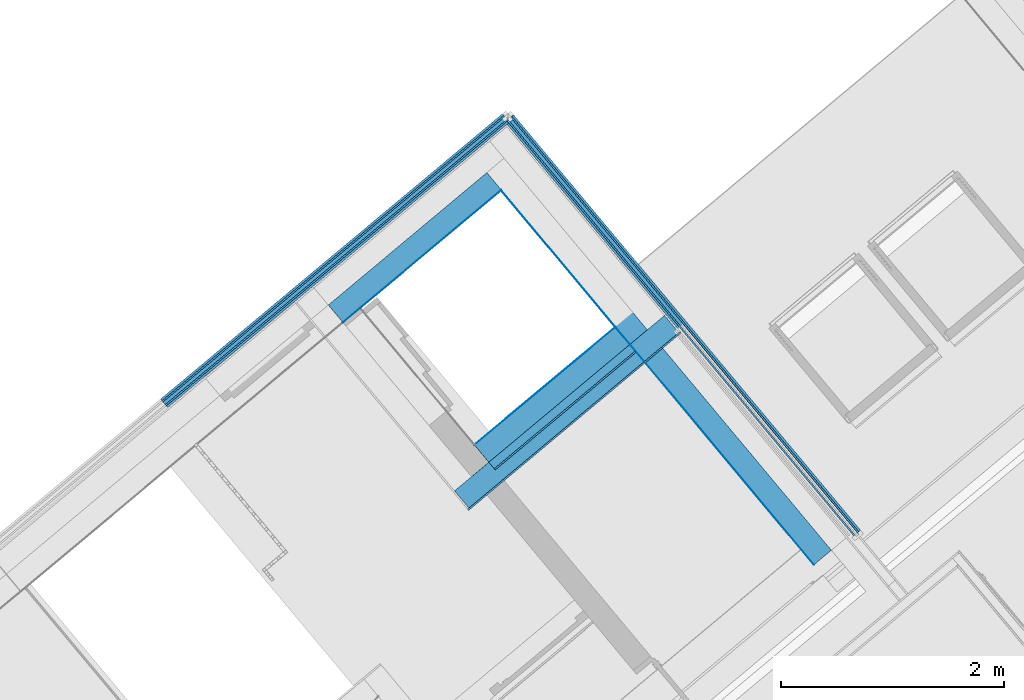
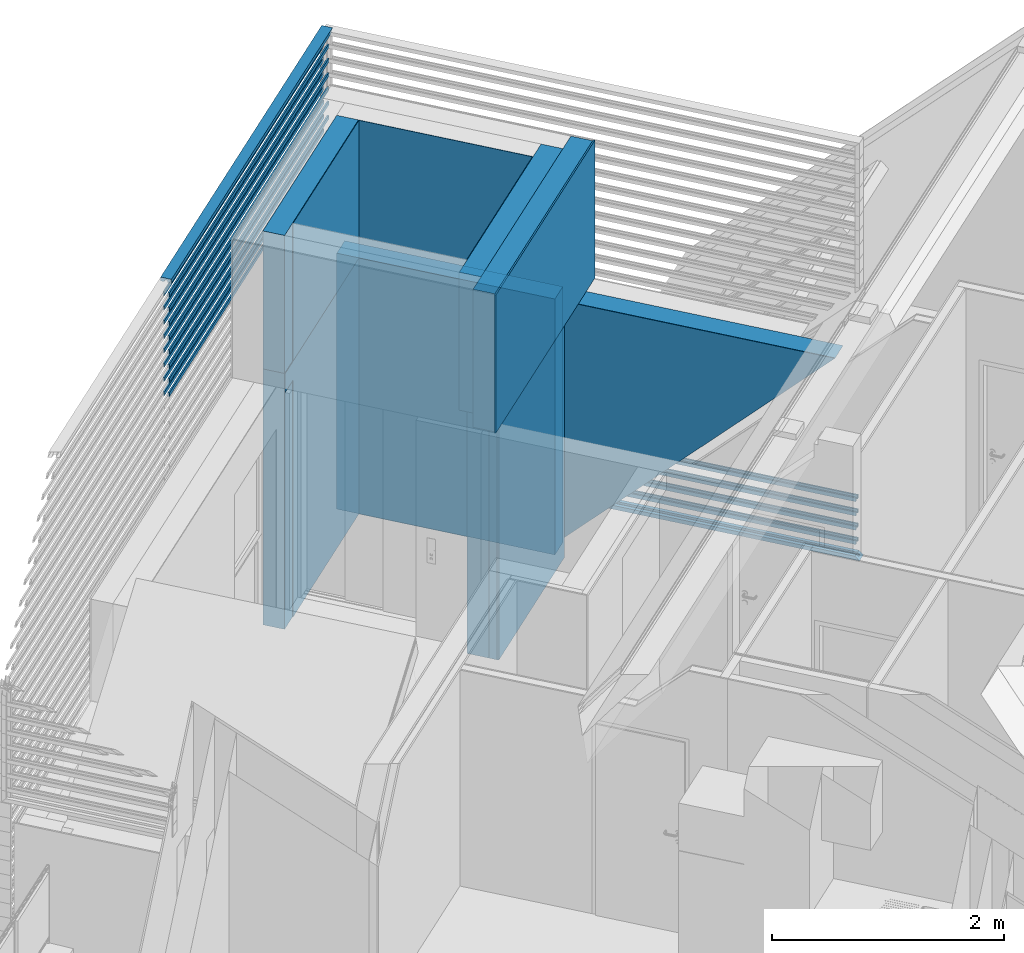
# One storey, part 27 of 47: 30 building element parts, 9 elements without a shape of their own.
"""IFC4 building model written with IfcOpenShell, lengths in metres."""

from ifc_helpers import new_model, entity, si_unit, converted_unit, derived_unit, direction, frame, origin_with_axes, place, context, subcontext, project, spatial, polygons, material, type_object, element, aggregate, save


model = new_model("IFC4")

# Units and contexts
model_context = context("Model", 3, precision=1e-05, world=origin_with_axes(), true_north=direction((0.0, 1.0)))
body_context = subcontext(model_context, "Body", "Model", "MODEL_VIEW")
ifc_project = project(units=[si_unit("LENGTHUNIT", "METRE"), si_unit("AREAUNIT", "SQUARE_METRE"), si_unit("VOLUMEUNIT", "CUBIC_METRE"), converted_unit("PLANEANGLEUNIT", "DEGREE", entity("IfcPlaneAngleMeasure", 0.0174532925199), si_unit("PLANEANGLEUNIT", "RADIAN"), dimensions=[0, 0, 0, 0, 0, 0, 0]), converted_unit("TIMEUNIT", "Year", entity("IfcTimeMeasure", 31556926.0), si_unit("TIMEUNIT", "SECOND"), dimensions=[0, 0, 1, 0, 0, 0, 0]), si_unit("MASSUNIT", "GRAM", prefix="KILO"), si_unit("THERMODYNAMICTEMPERATUREUNIT", "DEGREE_CELSIUS"), si_unit("LUMINOUSINTENSITYUNIT", "LUMEN"), si_unit("ENERGYUNIT", "JOULE", prefix="MEGA"), derived_unit("THERMALCONDUCTANCEUNIT", [(si_unit("POWERUNIT", "WATT"), 1), (si_unit("LENGTHUNIT", "METRE"), -1), (si_unit("THERMODYNAMICTEMPERATUREUNIT", "KELVIN"), -1)]), derived_unit("SPECIFICHEATCAPACITYUNIT", [(si_unit("ENERGYUNIT", "JOULE"), 1), (si_unit("MASSUNIT", "GRAM", prefix="KILO"), -1), (si_unit("THERMODYNAMICTEMPERATUREUNIT", "KELVIN"), -1)]), derived_unit("MASSDENSITYUNIT", [(si_unit("MASSUNIT", "GRAM", prefix="KILO"), 1), (si_unit("VOLUMEUNIT", "CUBIC_METRE"), -1)])], contexts=[model_context])

# Site, building, storey
site_placement = place(None, frame((-0.00153261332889, -0.00661245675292, 0.0), z_axis=(0.0, 0.0, 1.0), x_axis=(1.0, 0.0, 0.0)))
site = spatial("IfcSite", under=ifc_project, at=site_placement, Name="Site", CompositionType="ELEMENT")
building_placement = place(site_placement, origin_with_axes())
building = spatial("IfcBuilding", under=site, at=building_placement, Name="Building", CompositionType="ELEMENT")
storey_placement = place(building_placement, frame((0.0, 0.0, 8.66), z_axis=(0.0, 0.0, 1.0), x_axis=(1.0, 0.0, 0.0)))
storey = spatial("IfcBuildingStorey", under=building, at=storey_placement, Name="DG2", CompositionType="ELEMENT", Elevation=8.66)

# Wall, building element parts
wall_type_1 = type_object("IfcWallType", Name="AW EG 420", PredefinedType="NOTDEFINED")
wall_1_placement = place(storey_placement, frame((1.65501137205, 27.6568148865, 0.0), z_axis=(0.0, 0.0, 1.0), x_axis=(0.641209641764, -0.767365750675, 0.0)))
wall_1 = element("IfcWall", 1, at=wall_1_placement, inside=storey, type_object=wall_type_1, Name="Wand-002", PredefinedType="NOTDEFINED")
ifc_material_1 = material(Name="Stahlbeton Wand")
building_element_part_1_placement = place(wall_1_placement, origin_with_axes())
building_element_part_1 = element("IfcBuildingElementPart", 2, at=building_element_part_1_placement, material=ifc_material_1, Name="Stahlbeton Wand", PredefinedType="NOTDEFINED", context=body_context, shape_type="Tessellation", body=[
    polygons([(2.21618214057, -0.414999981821, 2.69), (2.2162256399, -0.215000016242, 2.69), (0.214999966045, -0.215000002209, 2.69), (0.214999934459, -0.414999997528, 2.69), (2.2162256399, -0.215000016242, 0.0), (2.21618214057, -0.414999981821, 0.0), (0.214999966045, -0.215000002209, 0.0), (0.214999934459, -0.414999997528, 0.0)], [[[1, 2, 3, 4]], [[5, 2, 1, 6]], [[2, 5, 7, 3]], [[3, 7, 8, 4]], [[6, 1, 4, 8]], [[5, 6, 8, 7]]], closed=True),
])
ifc_material_2 = material(Name="Zementputz")
building_element_part_2_placement = place(wall_1_placement, origin_with_axes())
building_element_part_2 = element("IfcBuildingElementPart", 3, at=building_element_part_2_placement, material=ifc_material_2, Name="Zementputz", PredefinedType="NOTDEFINED", context=body_context, shape_type="Tessellation", body=[
    polygons([(2.21618105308, -0.42, 2.69), (2.21618214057, -0.414999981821, 2.69), (0.414999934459, -0.414999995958, 2.69), (0.414999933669, -0.42, 2.69), (2.21618214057, -0.414999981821, 0.0), (2.21618105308, -0.42, 0.0), (0.414999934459, -0.414999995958, 0.0), (0.414999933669, -0.42, 0.0)], [[[1, 2, 3, 4]], [[5, 2, 1, 6]], [[2, 5, 7, 3]], [[3, 7, 8, 4]], [[6, 1, 4, 8]], [[5, 6, 8, 7]]], closed=True),
])
aggregate(wall_1, [building_element_part_1, building_element_part_2])

wall_type_2 = type_object("IfcWallType", Name="LB 9,0 cm einfache Vorsatzschale + STB 290", PredefinedType="NOTDEFINED")
wall_2_placement = place(storey_placement, frame((2.62930714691, 25.8436145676, 0.0), z_axis=(0.0, 0.0, 1.0), x_axis=(-0.767354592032, -0.641222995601, 0.0)))
wall_2 = element("IfcWall", 4, at=wall_2_placement, inside=storey, type_object=wall_type_2, Name="Wand-003", PredefinedType="NOTDEFINED")
ifc_material_3 = material(Name="Gipskarton")
building_element_part_3_placement = place(wall_2_placement, origin_with_axes())
building_element_part_3 = element("IfcBuildingElementPart", 5, at=building_element_part_3_placement, material=ifc_material_3, Name="Gipskarton", PredefinedType="NOTDEFINED", context=body_context, shape_type="Tessellation", body=[
    polygons([(0.0, 0.274999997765, 2.69), (0.0, 0.290000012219, 2.69), (0.0, 0.290000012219, 0.0), (0.0, 0.274999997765, 0.0), (1.64966970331, 0.290000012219, 2.69), (1.64966970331, 0.274999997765, 2.69), (1.64966970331, 0.290000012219, 0.0), (1.64966970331, 0.274999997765, 0.0)], [[[1, 2, 3, 4]], [[5, 2, 1, 6]], [[2, 5, 7, 3]], [[3, 7, 8, 4]], [[6, 1, 4, 8]], [[5, 6, 8, 7]]], closed=True),
])
ifc_material_4 = material(Name="Mineralwolle weich")
building_element_part_4_placement = place(wall_2_placement, origin_with_axes())
building_element_part_4 = element("IfcBuildingElementPart", 6, at=building_element_part_4_placement, material=ifc_material_4, Name="Mineralwolle weich", PredefinedType="NOTDEFINED", context=body_context, shape_type="Tessellation", body=[
    polygons([(0.0, 0.2, 2.69), (0.0, 0.274999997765, 2.69), (0.0, 0.274999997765, 0.0), (0.0, 0.200000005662, 0.0), (1.64966970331, 0.274999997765, 2.69), (1.64966970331, 0.2, 2.69), (1.64966970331, 0.274999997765, 0.0), (1.64966970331, 0.200000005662, 0.0)], [[[1, 2, 3, 4]], [[5, 2, 1, 6]], [[2, 5, 7, 3]], [[3, 7, 8, 4]], [[6, 1, 4, 8]], [[5, 6, 8, 7]]], closed=True),
])
building_element_part_5_placement = place(wall_2_placement, origin_with_axes())
building_element_part_5 = element("IfcBuildingElementPart", 7, at=building_element_part_5_placement, material=ifc_material_1, Name="Stahlbeton Wand", PredefinedType="NOTDEFINED", context=body_context, shape_type="Tessellation", body=[
    polygons([(0.0, 0.0, 2.69), (0.0, 0.2, 2.69), (0.0, 0.200000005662, 0.0), (0.0, 0.0, 0.0), (1.64966970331, 0.2, 2.69), (1.64966970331, 0.0, 2.69), (1.64966970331, 0.200000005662, 0.0), (1.64966970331, 0.0, 0.0)], [[[1, 2, 3, 4]], [[5, 2, 1, 6]], [[2, 5, 7, 3]], [[3, 7, 8, 4]], [[6, 1, 4, 8]], [[5, 6, 8, 7]]], closed=True),
])
aggregate(wall_2, [building_element_part_3, building_element_part_4, building_element_part_5])

wall_3_placement = place(storey_placement, frame((-0.0828746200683, 26.2046404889, 0.0), z_axis=(0.0, 0.0, 1.0), x_axis=(0.767365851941, 0.641209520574, 0.0)))
wall_3 = element("IfcWall", 8, at=wall_3_placement, inside=storey, type_object=wall_type_1, Name="Wand-002", PredefinedType="NOTDEFINED")
building_element_part_6_placement = place(wall_3_placement, origin_with_axes())
building_element_part_6 = element("IfcBuildingElementPart", 9, at=building_element_part_6_placement, material=ifc_material_1, Name="Stahlbeton Wand", PredefinedType="NOTDEFINED", context=body_context, shape_type="Tessellation", body=[
    polygons([(1.84974244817, -0.215, 2.69), (0.0, -0.215, 2.69), (0.0, -0.415, 2.69), (1.84974247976, -0.415, 2.69), (1.84974244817, -0.215, 0.0), (0.0, -0.215, 0.0), (0.0, -0.415, 0.0), (1.84974247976, -0.415, 0.0)], [[[1, 2, 3, 4]], [[5, 6, 2, 1]], [[3, 2, 6, 7]], [[4, 3, 7, 8]], [[4, 8, 5, 1]], [[8, 7, 6, 5]]], closed=True),
])
building_element_part_7_placement = place(wall_3_placement, origin_with_axes())
building_element_part_7 = element("IfcBuildingElementPart", 10, at=building_element_part_7_placement, material=ifc_material_2, Name="Zementputz", PredefinedType="NOTDEFINED", context=body_context, shape_type="Tessellation", body=[
    polygons([(0.19984396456, -0.42, 2.49), (0.19984396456, -0.42, 0.0), (1.84474248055, -0.42, 0.0), (1.84474248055, -0.42, 2.69), (0.0, -0.42, 2.69), (0.0, -0.42, 2.49), (0.199846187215, -0.415, 2.49), (0.199846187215, -0.415, 0.0), (1.84474247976, -0.415, 0.0), (1.84474247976, -0.415, 2.69), (0.0, -0.415, 2.69), (0.0, -0.415, 2.49)], [[[1, 2, 3, 4, 5, 6]], [[2, 1, 7, 8]], [[2, 8, 9, 3]], [[10, 4, 3, 9]], [[4, 10, 11, 5]], [[12, 6, 5, 11]], [[1, 6, 12, 7]], [[7, 12, 11, 10, 9, 8]]], closed=True),
])
aggregate(wall_3, [building_element_part_6, building_element_part_7])

wall_4_placement = place(storey_placement, frame((1.36342552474, 24.7858084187, 2.69), z_axis=(0.0, 0.0, 1.0), x_axis=(0.767354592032, 0.641222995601, 0.0)))
wall_4 = element("IfcWall", 11, at=wall_4_placement, inside=storey, type_object=wall_type_1, Name="Wand-002", PredefinedType="NOTDEFINED")
building_element_part_8_placement = place(wall_4_placement, origin_with_axes())
building_element_part_8 = element("IfcBuildingElementPart", 12, at=building_element_part_8_placement, material=ifc_material_2, Name="Zementputz", PredefinedType="NOTDEFINED", context=body_context, shape_type="Tessellation", body=[
    polygons([(1.64966979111, 0.005, 1.45), (4.01767703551e-07, 0.005, 1.45), (0.0, 0.0, 1.45), (1.64966970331, 0.0, 1.45), (4.01767707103e-07, 0.005, 0.0), (1.64966979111, 0.005, 0.0), (0.0, 0.0, 0.0), (1.64966970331, 0.0, 0.0)], [[[1, 2, 3, 4]], [[5, 2, 1, 6]], [[7, 3, 2, 5]], [[4, 3, 7, 8]], [[6, 1, 4, 8]], [[8, 7, 5, 6]]], closed=True),
])
building_element_part_9_placement = place(wall_4_placement, origin_with_axes())
building_element_part_9 = element("IfcBuildingElementPart", 13, at=building_element_part_9_placement, material=ifc_material_1, Name="Stahlbeton Wand", PredefinedType="NOTDEFINED", context=body_context, shape_type="Tessellation", body=[
    polygons([(1.84966970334, 0.0, 1.45), (-0.200000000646, 0.0, 1.45), (-0.200016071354, -0.2, 1.45), (1.84966619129, -0.2, 1.45), (-0.200000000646, 0.0, 0.0), (1.84966970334, 0.0, 0.0), (-0.200016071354, -0.2, 0.0), (1.84966619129, -0.2, 0.0)], [[[1, 2, 3, 4]], [[5, 2, 1, 6]], [[7, 3, 2, 5]], [[4, 3, 7, 8]], [[6, 1, 4, 8]], [[8, 7, 5, 6]]], closed=True),
])
ifc_material_5 = material(Name="EPS 1")
building_element_part_10_placement = place(wall_4_placement, origin_with_axes())
building_element_part_10 = element("IfcBuildingElementPart", 14, at=building_element_part_10_placement, material=ifc_material_5, Name="EPS 1", PredefinedType="NOTDEFINED", context=body_context, shape_type="Tessellation", body=[
    polygons([(2.04966619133, -0.2, 1.45), (-0.400016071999, -0.2, 1.45), (-0.400032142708, -0.4, 1.45), (2.04966267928, -0.4, 1.45), (-0.400016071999, -0.2, 0.0), (2.04966619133, -0.2, 0.0), (-0.400032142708, -0.4, 0.0), (2.04966267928, -0.4, 0.0)], [[[1, 2, 3, 4]], [[5, 2, 1, 6]], [[7, 3, 2, 5]], [[4, 3, 7, 8]], [[6, 1, 4, 8]], [[8, 7, 5, 6]]], closed=True),
])
building_element_part_11_placement = place(wall_4_placement, origin_with_axes())
building_element_part_11 = element("IfcBuildingElementPart", 15, at=building_element_part_11_placement, material=ifc_material_2, Name="Zementputz", PredefinedType="NOTDEFINED", context=body_context, shape_type="Tessellation", body=[
    polygons([(2.06466267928, -0.4, 1.45), (-0.415032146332, -0.4, 1.45), (-0.415033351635, -0.415, 1.45), (2.06466241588, -0.415, 1.45), (-0.415032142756, -0.4, 0.0), (-0.415032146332, -0.4, 0.29), (2.06466267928, -0.4, 0.29), (2.06466267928, -0.4, 0.0), (-0.415033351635, -0.415, 0.29), (-0.415033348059, -0.415, 0.0), (2.06466241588, -0.415, 0.0), (2.06466241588, -0.415, 0.29)], [[[1, 2, 3, 4]], [[5, 6, 2, 1, 7, 8]], [[6, 9, 3, 2]], [[4, 3, 9, 10, 11, 12]], [[7, 1, 4, 12]], [[10, 9, 6, 5]], [[8, 7, 12, 11]], [[11, 10, 5, 8]]], closed=True),
])
aggregate(wall_4, [building_element_part_8, building_element_part_9, building_element_part_10, building_element_part_11])

# Wall, building element part
wall_5_placement = place(storey_placement, frame((2.62930714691, 25.8436145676, 2.69), z_axis=(0.0, 0.0, 1.0), x_axis=(-0.641209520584, 0.767365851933, 0.0)))
wall_5 = element("IfcWall", 16, at=wall_5_placement, inside=storey, type_object=wall_type_1, Name="Wand-002", PredefinedType="NOTDEFINED")
building_element_part_12_placement = place(wall_5_placement, origin_with_axes())
building_element_part_12 = element("IfcBuildingElementPart", 17, at=building_element_part_12_placement, material=ifc_material_2, Name="Zementputz", PredefinedType="NOTDEFINED", context=body_context, shape_type="Tessellation", body=[
    polygons([(0.00499991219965, 0.005, 1.45), (0.00500000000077, 0.0, 1.45), (1.60111573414, 0.0, 1.45), (1.60111573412, 0.005, 1.45), (0.00500000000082, 0.0, 0.29), (0.0049999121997, 0.005, 0.29), (0.00500000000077, 0.0, 0.0), (1.60111573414, 0.0, 0.0), (1.60111573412, 0.005, 0.0), (0.00499991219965, 0.005, 0.0)], [[[1, 2, 3, 4]], [[5, 2, 1, 6]], [[2, 5, 7, 8, 3]], [[4, 3, 8, 9]], [[6, 1, 4, 9, 10]], [[5, 6, 10, 7]], [[7, 10, 9, 8]]], closed=True),
])
aggregate(wall_5, [building_element_part_12])

# Wall, building element parts
wall_6_placement = place(storey_placement, frame((1.60265649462, 27.072256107, 2.69), z_axis=(0.0, 0.0, 1.0), x_axis=(-0.767365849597, -0.641209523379, 0.0)))
wall_6 = element("IfcWall", 18, at=wall_6_placement, inside=storey, type_object=wall_type_1, Name="Wand-002", PredefinedType="NOTDEFINED")
building_element_part_13_placement = place(wall_6_placement, origin_with_axes())
building_element_part_13 = element("IfcBuildingElementPart", 19, at=building_element_part_13_placement, material=ifc_material_2, Name="Zementputz", PredefinedType="NOTDEFINED", context=body_context, shape_type="Tessellation", body=[
    polygons([(1.64956916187, 0.0, 0.0), (0.005, 0.0, 0.0), (0.00500000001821, 0.005, 0.0), (1.64956947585, 0.005, 0.0), (1.64956916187, 0.0, 1.45), (0.005, 0.0, 1.45), (0.00500000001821, 0.005, 1.45), (1.64956947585, 0.005, 1.45)], [[[1, 2, 3, 4]], [[5, 6, 2, 1]], [[3, 2, 6, 7]], [[4, 3, 7, 8]], [[4, 8, 5, 1]], [[8, 7, 6, 5]]], closed=True),
])
building_element_part_14_placement = place(wall_6_placement, origin_with_axes())
building_element_part_14 = element("IfcBuildingElementPart", 20, at=building_element_part_14_placement, material=ifc_material_1, Name="Stahlbeton Wand", PredefinedType="NOTDEFINED", context=body_context, shape_type="Tessellation", body=[
    polygons([(1.84955660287, -0.2, 0.0), (-7.28515914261e-10, -0.2, 0.0), (0.0, 0.0, 0.0), (1.84956916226, 0.0, 0.0), (1.84955660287, -0.2, 1.45), (-7.28515914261e-10, -0.2, 1.45), (0.0, 0.0, 1.45), (1.84956916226, 0.0, 1.45)], [[[1, 2, 3, 4]], [[5, 6, 2, 1]], [[3, 2, 6, 7]], [[4, 3, 7, 8]], [[4, 8, 5, 1]], [[8, 7, 6, 5]]], closed=True),
])
aggregate(wall_6, [building_element_part_13, building_element_part_14])

# Curtain wall, building element parts
curtain_wall_type = type_object("IfcCurtainWallType", Name="Fassadentyp", PredefinedType="NOTDEFINED")
curtain_wall_1_placement = place(storey_placement, frame((3.22758193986, 25.8519152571, 0.32), z_axis=(0.0, 0.0, 1.0), x_axis=(1.0, 0.0, 0.0)))
curtain_wall_1 = element("IfcCurtainWall", 21, at=curtain_wall_1_placement, inside=storey, type_object=curtain_wall_type, Name="Fassade-001", PredefinedType="NOTDEFINED")
ifc_material_6 = material(Name="Blech")
building_element_part_15_placement = place(curtain_wall_1_placement, origin_with_axes())
building_element_part_15 = element("IfcBuildingElementPart", 22, at=building_element_part_15_placement, material=ifc_material_6, Name="Blech", PredefinedType="NOTDEFINED", context=body_context, shape_type="Tessellation", body=[
    polygons([(1.55485923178, -1.88503623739, 0.0), (1.54203854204, -1.86968599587, 0.02), (1.51517561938, -1.8921222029, 0.02), (1.54081699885, -1.92282268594, -0.02), (1.61756820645, -1.85871923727, -0.02), (1.59192682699, -1.82801875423, 0.02), (1.56506390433, -1.85045496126, 0.02), (1.57788459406, -1.86580520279, 0.0), (-1.57788459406, 1.86580520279, 0.0), (-1.56506390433, 1.85045496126, 0.02), (-1.59192682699, 1.82801875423, 0.02), (-1.61756820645, 1.85871923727, -0.02), (-1.54081699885, 1.92282268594, -0.02), (-1.51517561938, 1.8921222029, 0.02), (-1.54203854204, 1.86968599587, 0.02), (-1.55485923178, 1.88503623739, 0.0)], [[[1, 2, 3, 4, 5, 6, 7, 8]], [[1, 9, 10, 2]], [[10, 11, 3, 2]], [[3, 11, 12, 4]], [[4, 12, 13, 5]], [[5, 13, 14, 6]], [[7, 6, 14, 15]], [[15, 16, 8, 7]], [[8, 16, 9, 1]], [[9, 16, 15, 14, 13, 12, 11, 10]]], closed=True),
])
building_element_part_16_placement = place(curtain_wall_1_placement, origin_with_axes())
building_element_part_16 = element("IfcBuildingElementPart", 23, at=building_element_part_16_placement, material=ifc_material_6, Name="Blech", PredefinedType="NOTDEFINED", context=body_context, shape_type="Tessellation", body=[
    polygons([(-1.56506390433, 1.85045496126, 0.15), (-1.56506390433, 1.85045496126, 0.17), (1.54203854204, -1.86968599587, 0.17), (1.54203854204, -1.86968599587, 0.15), (1.54203854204, -1.86968599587, 0.13), (-1.56506390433, 1.85045496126, 0.13), (-1.57657658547, 1.84083944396, 0.13), (-1.57657658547, 1.84083944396, 0.17), (1.5305258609, -1.87930151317, 0.17), (1.5305258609, -1.87930151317, 0.13)], [[[1, 2, 3, 4, 5, 6]], [[6, 7, 8, 2, 1]], [[3, 2, 8, 9]], [[4, 3, 9, 10, 5]], [[5, 10, 7, 6]], [[10, 9, 8, 7]]], closed=True),
    polygons([(1.56506390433, -1.85045496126, 0.13), (1.57657658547, -1.84083944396, 0.13), (1.57657658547, -1.84083944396, 0.17), (1.56506390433, -1.85045496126, 0.17), (1.56506390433, -1.85045496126, 0.15), (-1.54203854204, 1.86968599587, 0.13), (-1.5305258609, 1.87930151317, 0.13), (-1.5305258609, 1.87930151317, 0.17), (-1.54203854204, 1.86968599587, 0.17), (-1.54203854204, 1.86968599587, 0.15)], [[[1, 2, 3, 4, 5]], [[6, 7, 2, 1]], [[3, 2, 7, 8]], [[9, 4, 3, 8]], [[5, 4, 9, 10, 6, 1]], [[10, 9, 8, 7, 6]]], closed=True),
])
building_element_part_17_placement = place(curtain_wall_1_placement, origin_with_axes())
building_element_part_17 = element("IfcBuildingElementPart", 24, at=building_element_part_17_placement, material=ifc_material_6, Name="Blech", PredefinedType="NOTDEFINED", context=body_context, shape_type="Tessellation", body=[
    polygons([(-1.56506390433, 1.85045496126, 0.3), (-1.56506390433, 1.85045496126, 0.32), (1.54203854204, -1.86968599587, 0.32), (1.54203854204, -1.86968599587, 0.3), (1.54203854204, -1.86968599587, 0.28), (-1.56506390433, 1.85045496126, 0.28), (-1.57657658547, 1.84083944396, 0.28), (-1.57657658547, 1.84083944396, 0.32), (1.5305258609, -1.87930151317, 0.32), (1.5305258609, -1.87930151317, 0.28)], [[[1, 2, 3, 4, 5, 6]], [[6, 7, 8, 2, 1]], [[3, 2, 8, 9]], [[4, 3, 9, 10, 5]], [[5, 10, 7, 6]], [[10, 9, 8, 7]]], closed=True),
    polygons([(1.56506390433, -1.85045496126, 0.28), (1.57657658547, -1.84083944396, 0.28), (1.57657658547, -1.84083944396, 0.32), (1.56506390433, -1.85045496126, 0.32), (1.56506390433, -1.85045496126, 0.3), (-1.54203854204, 1.86968599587, 0.28), (-1.5305258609, 1.87930151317, 0.28), (-1.5305258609, 1.87930151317, 0.32), (-1.54203854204, 1.86968599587, 0.32), (-1.54203854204, 1.86968599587, 0.3)], [[[1, 2, 3, 4, 5]], [[6, 7, 2, 1]], [[3, 2, 7, 8]], [[9, 4, 3, 8]], [[5, 4, 9, 10, 6, 1]], [[10, 9, 8, 7, 6]]], closed=True),
])
building_element_part_18_placement = place(curtain_wall_1_placement, origin_with_axes())
building_element_part_18 = element("IfcBuildingElementPart", 25, at=building_element_part_18_placement, material=ifc_material_6, Name="Blech", PredefinedType="NOTDEFINED", context=body_context, shape_type="Tessellation", body=[
    polygons([(-1.56506390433, 1.85045496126, 0.45), (-1.56506390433, 1.85045496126, 0.47), (1.54203854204, -1.86968599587, 0.47), (1.54203854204, -1.86968599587, 0.45), (1.54203854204, -1.86968599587, 0.43), (-1.56506390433, 1.85045496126, 0.43), (-1.57657658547, 1.84083944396, 0.43), (-1.57657658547, 1.84083944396, 0.47), (1.5305258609, -1.87930151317, 0.47), (1.5305258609, -1.87930151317, 0.43)], [[[1, 2, 3, 4, 5, 6]], [[6, 7, 8, 2, 1]], [[3, 2, 8, 9]], [[4, 3, 9, 10, 5]], [[5, 10, 7, 6]], [[10, 9, 8, 7]]], closed=True),
    polygons([(1.56506390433, -1.85045496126, 0.43), (1.57657658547, -1.84083944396, 0.43), (1.57657658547, -1.84083944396, 0.47), (1.56506390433, -1.85045496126, 0.47), (1.56506390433, -1.85045496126, 0.45), (-1.54203854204, 1.86968599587, 0.43), (-1.5305258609, 1.87930151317, 0.43), (-1.5305258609, 1.87930151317, 0.47), (-1.54203854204, 1.86968599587, 0.47), (-1.54203854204, 1.86968599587, 0.45)], [[[1, 2, 3, 4, 5]], [[6, 7, 2, 1]], [[3, 2, 7, 8]], [[9, 4, 3, 8]], [[5, 4, 9, 10, 6, 1]], [[10, 9, 8, 7, 6]]], closed=True),
])
building_element_part_19_placement = place(curtain_wall_1_placement, origin_with_axes())
building_element_part_19 = element("IfcBuildingElementPart", 26, at=building_element_part_19_placement, material=ifc_material_6, Name="Blech", PredefinedType="NOTDEFINED", context=body_context, shape_type="Tessellation", body=[
    polygons([(-1.56506390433, 1.85045496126, 0.6), (-1.56506390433, 1.85045496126, 0.62), (1.54203854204, -1.86968599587, 0.62), (1.54203854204, -1.86968599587, 0.6), (1.54203854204, -1.86968599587, 0.58), (-1.56506390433, 1.85045496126, 0.58), (-1.57657658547, 1.84083944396, 0.58), (-1.57657658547, 1.84083944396, 0.62), (1.5305258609, -1.87930151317, 0.62), (1.5305258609, -1.87930151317, 0.58)], [[[1, 2, 3, 4, 5, 6]], [[6, 7, 8, 2, 1]], [[3, 2, 8, 9]], [[4, 3, 9, 10, 5]], [[5, 10, 7, 6]], [[10, 9, 8, 7]]], closed=True),
    polygons([(1.56506390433, -1.85045496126, 0.58), (1.57657658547, -1.84083944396, 0.58), (1.57657658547, -1.84083944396, 0.62), (1.56506390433, -1.85045496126, 0.62), (1.56506390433, -1.85045496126, 0.6), (-1.54203854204, 1.86968599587, 0.58), (-1.5305258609, 1.87930151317, 0.58), (-1.5305258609, 1.87930151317, 0.62), (-1.54203854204, 1.86968599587, 0.62), (-1.54203854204, 1.86968599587, 0.6)], [[[1, 2, 3, 4, 5]], [[6, 7, 2, 1]], [[3, 2, 7, 8]], [[9, 4, 3, 8]], [[5, 4, 9, 10, 6, 1]], [[10, 9, 8, 7, 6]]], closed=True),
])
aggregate(curtain_wall_1, [building_element_part_15, building_element_part_16, building_element_part_17, building_element_part_18, building_element_part_19])

curtain_wall_2_placement = place(storey_placement, frame((-2.95253507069, 23.8775371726, 0.32), z_axis=(0.0, 0.0, 1.0), x_axis=(1.0, 0.0, 0.0)))
curtain_wall_2 = element("IfcCurtainWall", 27, at=curtain_wall_2_placement, inside=storey, type_object=curtain_wall_type, Name="Fassade-001", PredefinedType="NOTDEFINED")
building_element_part_20_placement = place(curtain_wall_2_placement, origin_with_axes())
building_element_part_20 = element("IfcBuildingElementPart", 28, at=building_element_part_20_placement, material=ifc_material_6, Name="Blech", PredefinedType="NOTDEFINED", context=body_context, shape_type="Tessellation", body=[
    polygons([(1.54752517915, 1.27174910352, 3.15), (1.54752517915, 1.27174910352, 3.17), (4.60799902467, 3.8254681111, 3.17), (4.60799902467, 3.8254681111, 3.15), (4.60799902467, 3.8254681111, 3.13), (1.54752517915, 1.27174910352, 3.13), (1.55713532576, 1.26023193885, 3.13), (1.55713532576, 1.26023193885, 3.17), (4.61760917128, 3.81395094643, 3.17), (4.61760917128, 3.81395094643, 3.13)], [[[1, 2, 3, 4, 5, 6]], [[6, 7, 8, 2, 1]], [[3, 2, 8, 9]], [[4, 3, 9, 10, 5]], [[5, 10, 7, 6]], [[9, 8, 7, 10]]], closed=True),
    polygons([(4.58877873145, 3.84850244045, 3.13), (4.57916858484, 3.86001960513, 3.13), (4.57916858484, 3.86001960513, 3.17), (4.58877873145, 3.84850244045, 3.17), (4.58877873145, 3.84850244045, 3.15), (1.52830488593, 1.29478343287, 3.13), (1.51869473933, 1.30630059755, 3.13), (1.51869473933, 1.30630059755, 3.17), (1.52830488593, 1.29478343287, 3.17), (1.52830488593, 1.29478343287, 3.15)], [[[1, 2, 3, 4, 5]], [[6, 7, 2, 1]], [[2, 7, 8, 3]], [[9, 4, 3, 8]], [[5, 4, 9, 10, 6, 1]], [[10, 9, 8, 7, 6]]], closed=True),
])
building_element_part_21_placement = place(curtain_wall_2_placement, origin_with_axes())
building_element_part_21 = element("IfcBuildingElementPart", 29, at=building_element_part_21_placement, material=ifc_material_6, Name="Blech", PredefinedType="NOTDEFINED", context=body_context, shape_type="Tessellation", body=[
    polygons([(1.54752517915, 1.27174910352, 3.3), (1.54752517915, 1.27174910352, 3.32), (4.60799902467, 3.8254681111, 3.32), (4.60799902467, 3.8254681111, 3.3), (4.60799902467, 3.8254681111, 3.28), (1.54752517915, 1.27174910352, 3.28), (1.55713532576, 1.26023193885, 3.28), (1.55713532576, 1.26023193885, 3.32), (4.61760917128, 3.81395094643, 3.32), (4.61760917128, 3.81395094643, 3.28)], [[[1, 2, 3, 4, 5, 6]], [[6, 7, 8, 2, 1]], [[3, 2, 8, 9]], [[4, 3, 9, 10, 5]], [[5, 10, 7, 6]], [[9, 8, 7, 10]]], closed=True),
    polygons([(4.58877873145, 3.84850244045, 3.28), (4.57916858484, 3.86001960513, 3.28), (4.57916858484, 3.86001960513, 3.32), (4.58877873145, 3.84850244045, 3.32), (4.58877873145, 3.84850244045, 3.3), (1.52830488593, 1.29478343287, 3.28), (1.51869473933, 1.30630059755, 3.28), (1.51869473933, 1.30630059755, 3.32), (1.52830488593, 1.29478343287, 3.32), (1.52830488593, 1.29478343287, 3.3)], [[[1, 2, 3, 4, 5]], [[6, 7, 2, 1]], [[2, 7, 8, 3]], [[9, 4, 3, 8]], [[5, 4, 9, 10, 6, 1]], [[10, 9, 8, 7, 6]]], closed=True),
])
building_element_part_22_placement = place(curtain_wall_2_placement, origin_with_axes())
building_element_part_22 = element("IfcBuildingElementPart", 30, at=building_element_part_22_placement, material=ifc_material_6, Name="Blech", PredefinedType="NOTDEFINED", context=body_context, shape_type="Tessellation", body=[
    polygons([(1.54752517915, 1.27174910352, 3.45), (1.54752517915, 1.27174910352, 3.47), (4.60799902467, 3.8254681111, 3.47), (4.60799902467, 3.8254681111, 3.45), (4.60799902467, 3.8254681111, 3.43), (1.54752517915, 1.27174910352, 3.43), (1.55713532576, 1.26023193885, 3.43), (1.55713532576, 1.26023193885, 3.47), (4.61760917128, 3.81395094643, 3.47), (4.61760917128, 3.81395094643, 3.43)], [[[1, 2, 3, 4, 5, 6]], [[6, 7, 8, 2, 1]], [[3, 2, 8, 9]], [[4, 3, 9, 10, 5]], [[5, 10, 7, 6]], [[9, 8, 7, 10]]], closed=True),
    polygons([(4.58877873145, 3.84850244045, 3.43), (4.57916858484, 3.86001960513, 3.43), (4.57916858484, 3.86001960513, 3.47), (4.58877873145, 3.84850244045, 3.47), (4.58877873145, 3.84850244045, 3.45), (1.52830488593, 1.29478343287, 3.43), (1.51869473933, 1.30630059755, 3.43), (1.51869473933, 1.30630059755, 3.47), (1.52830488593, 1.29478343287, 3.47), (1.52830488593, 1.29478343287, 3.45)], [[[1, 2, 3, 4, 5]], [[6, 7, 2, 1]], [[2, 7, 8, 3]], [[9, 4, 3, 8]], [[5, 4, 9, 10, 6, 1]], [[10, 9, 8, 7, 6]]], closed=True),
])
building_element_part_23_placement = place(curtain_wall_2_placement, origin_with_axes())
building_element_part_23 = element("IfcBuildingElementPart", 31, at=building_element_part_23_placement, material=ifc_material_6, Name="Blech", PredefinedType="NOTDEFINED", context=body_context, shape_type="Tessellation", body=[
    polygons([(1.54752517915, 1.27174910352, 3.6), (1.54752517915, 1.27174910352, 3.62), (4.60799902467, 3.8254681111, 3.62), (4.60799902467, 3.8254681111, 3.6), (4.60799902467, 3.8254681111, 3.58), (1.54752517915, 1.27174910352, 3.58), (1.55713532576, 1.26023193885, 3.58), (1.55713532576, 1.26023193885, 3.62), (4.61760917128, 3.81395094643, 3.62), (4.61760917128, 3.81395094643, 3.58)], [[[1, 2, 3, 4, 5, 6]], [[6, 7, 8, 2, 1]], [[3, 2, 8, 9]], [[4, 3, 9, 10, 5]], [[5, 10, 7, 6]], [[9, 8, 7, 10]]], closed=True),
    polygons([(4.58877873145, 3.84850244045, 3.58), (4.57916858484, 3.86001960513, 3.58), (4.57916858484, 3.86001960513, 3.62), (4.58877873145, 3.84850244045, 3.62), (4.58877873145, 3.84850244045, 3.6), (1.52830488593, 1.29478343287, 3.58), (1.51869473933, 1.30630059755, 3.58), (1.51869473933, 1.30630059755, 3.62), (1.52830488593, 1.29478343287, 3.62), (1.52830488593, 1.29478343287, 3.6)], [[[1, 2, 3, 4, 5]], [[6, 7, 2, 1]], [[2, 7, 8, 3]], [[9, 4, 3, 8]], [[5, 4, 9, 10, 6, 1]], [[10, 9, 8, 7, 6]]], closed=True),
])
building_element_part_24_placement = place(curtain_wall_2_placement, origin_with_axes())
building_element_part_24 = element("IfcBuildingElementPart", 32, at=building_element_part_24_placement, material=ifc_material_6, Name="Blech", PredefinedType="NOTDEFINED", context=body_context, shape_type="Tessellation", body=[
    polygons([(1.54752517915, 1.27174910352, 3.75), (1.54752517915, 1.27174910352, 3.77), (4.60799902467, 3.8254681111, 3.77), (4.60799902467, 3.8254681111, 3.75), (4.60799902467, 3.8254681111, 3.73), (1.54752517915, 1.27174910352, 3.73), (1.55713532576, 1.26023193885, 3.73), (1.55713532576, 1.26023193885, 3.77), (4.61760917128, 3.81395094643, 3.77), (4.61760917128, 3.81395094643, 3.73)], [[[1, 2, 3, 4, 5, 6]], [[6, 7, 8, 2, 1]], [[3, 2, 8, 9]], [[4, 3, 9, 10, 5]], [[5, 10, 7, 6]], [[9, 8, 7, 10]]], closed=True),
    polygons([(4.58877873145, 3.84850244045, 3.73), (4.57916858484, 3.86001960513, 3.73), (4.57916858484, 3.86001960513, 3.77), (4.58877873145, 3.84850244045, 3.77), (4.58877873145, 3.84850244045, 3.75), (1.52830488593, 1.29478343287, 3.73), (1.51869473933, 1.30630059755, 3.73), (1.51869473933, 1.30630059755, 3.77), (1.52830488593, 1.29478343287, 3.77), (1.52830488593, 1.29478343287, 3.75)], [[[1, 2, 3, 4, 5]], [[6, 7, 2, 1]], [[2, 7, 8, 3]], [[9, 4, 3, 8]], [[5, 4, 9, 10, 6, 1]], [[10, 9, 8, 7, 6]]], closed=True),
])
building_element_part_25_placement = place(curtain_wall_2_placement, origin_with_axes())
building_element_part_25 = element("IfcBuildingElementPart", 33, at=building_element_part_25_placement, material=ifc_material_6, Name="Blech", PredefinedType="NOTDEFINED", context=body_context, shape_type="Tessellation", body=[
    polygons([(1.54752517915, 1.27174910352, 3.9), (1.54752517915, 1.27174910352, 3.92), (4.60799902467, 3.8254681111, 3.92), (4.60799902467, 3.8254681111, 3.9), (4.60799902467, 3.8254681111, 3.88), (1.54752517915, 1.27174910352, 3.88), (1.55713532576, 1.26023193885, 3.88), (1.55713532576, 1.26023193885, 3.92), (4.61760917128, 3.81395094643, 3.92), (4.61760917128, 3.81395094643, 3.88)], [[[1, 2, 3, 4, 5, 6]], [[6, 7, 8, 2, 1]], [[3, 2, 8, 9]], [[4, 3, 9, 10, 5]], [[5, 10, 7, 6]], [[9, 8, 7, 10]]], closed=True),
    polygons([(4.58877873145, 3.84850244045, 3.88), (4.57916858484, 3.86001960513, 3.88), (4.57916858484, 3.86001960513, 3.92), (4.58877873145, 3.84850244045, 3.92), (4.58877873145, 3.84850244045, 3.9), (1.52830488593, 1.29478343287, 3.88), (1.51869473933, 1.30630059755, 3.88), (1.51869473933, 1.30630059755, 3.92), (1.52830488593, 1.29478343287, 3.92), (1.52830488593, 1.29478343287, 3.9)], [[[1, 2, 3, 4, 5]], [[6, 7, 2, 1]], [[2, 7, 8, 3]], [[9, 4, 3, 8]], [[5, 4, 9, 10, 6, 1]], [[10, 9, 8, 7, 6]]], closed=True),
])
building_element_part_26_placement = place(curtain_wall_2_placement, origin_with_axes())
building_element_part_26 = element("IfcBuildingElementPart", 34, at=building_element_part_26_placement, material=ifc_material_6, Name="Blech", PredefinedType="NOTDEFINED", context=body_context, shape_type="Tessellation", body=[
    polygons([(1.54752517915, 1.27174910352, 4.05), (1.54752517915, 1.27174910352, 4.07), (4.60799902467, 3.8254681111, 4.07), (4.60799902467, 3.8254681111, 4.05), (4.60799902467, 3.8254681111, 4.03), (1.54752517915, 1.27174910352, 4.03), (1.55713532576, 1.26023193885, 4.03), (1.55713532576, 1.26023193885, 4.07), (4.61760917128, 3.81395094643, 4.07), (4.61760917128, 3.81395094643, 4.03)], [[[1, 2, 3, 4, 5, 6]], [[6, 7, 8, 2, 1]], [[3, 2, 8, 9]], [[4, 3, 9, 10, 5]], [[5, 10, 7, 6]], [[9, 8, 7, 10]]], closed=True),
    polygons([(4.58877873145, 3.84850244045, 4.03), (4.57916858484, 3.86001960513, 4.03), (4.57916858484, 3.86001960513, 4.07), (4.58877873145, 3.84850244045, 4.07), (4.58877873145, 3.84850244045, 4.05), (1.52830488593, 1.29478343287, 4.03), (1.51869473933, 1.30630059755, 4.03), (1.51869473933, 1.30630059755, 4.07), (1.52830488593, 1.29478343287, 4.07), (1.52830488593, 1.29478343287, 4.05)], [[[1, 2, 3, 4, 5]], [[6, 7, 2, 1]], [[2, 7, 8, 3]], [[9, 4, 3, 8]], [[5, 4, 9, 10, 6, 1]], [[10, 9, 8, 7, 6]]], closed=True),
])
building_element_part_27_placement = place(curtain_wall_2_placement, origin_with_axes())
building_element_part_27 = element("IfcBuildingElementPart", 35, at=building_element_part_27_placement, material=ifc_material_6, Name="Blech", PredefinedType="NOTDEFINED", context=body_context, shape_type="Tessellation", body=[
    polygons([(1.54752517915, 1.27174910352, 4.2), (1.54752517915, 1.27174910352, 4.22), (4.60799902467, 3.8254681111, 4.22), (4.60799902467, 3.8254681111, 4.2), (4.60799902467, 3.8254681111, 4.18), (1.54752517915, 1.27174910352, 4.18), (1.55713532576, 1.26023193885, 4.18), (1.55713532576, 1.26023193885, 4.22), (4.61760917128, 3.81395094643, 4.22), (4.61760917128, 3.81395094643, 4.18)], [[[1, 2, 3, 4, 5, 6]], [[6, 7, 8, 2, 1]], [[3, 2, 8, 9]], [[4, 3, 9, 10, 5]], [[5, 10, 7, 6]], [[9, 8, 7, 10]]], closed=True),
    polygons([(4.58877873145, 3.84850244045, 4.18), (4.57916858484, 3.86001960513, 4.18), (4.57916858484, 3.86001960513, 4.22), (4.58877873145, 3.84850244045, 4.22), (4.58877873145, 3.84850244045, 4.2), (1.52830488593, 1.29478343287, 4.18), (1.51869473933, 1.30630059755, 4.18), (1.51869473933, 1.30630059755, 4.22), (1.52830488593, 1.29478343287, 4.22), (1.52830488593, 1.29478343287, 4.2)], [[[1, 2, 3, 4, 5]], [[6, 7, 2, 1]], [[2, 7, 8, 3]], [[9, 4, 3, 8]], [[5, 4, 9, 10, 6, 1]], [[10, 9, 8, 7, 6]]], closed=True),
])
building_element_part_28_placement = place(curtain_wall_2_placement, origin_with_axes())
building_element_part_28 = element("IfcBuildingElementPart", 36, at=building_element_part_28_placement, material=ifc_material_6, Name="Blech", PredefinedType="NOTDEFINED", context=body_context, shape_type="Tessellation", body=[
    polygons([(4.62335524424, 3.83828163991, 4.35000006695), (4.60413495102, 3.86131596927, 4.35000006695), (4.58877873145, 3.84850244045, 4.33000006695), (4.56635505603, 3.8753758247, 4.33000006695), (4.59706749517, 3.90100288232, 4.37000006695), (4.66113513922, 3.82422178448, 4.37000006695), (4.63042270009, 3.79859472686, 4.33000006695), (4.60799902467, 3.8254681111, 4.33000006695), (1.54752517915, 1.27174910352, 4.35000006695), (1.52830488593, 1.29478343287, 4.35000006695), (1.52830488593, 1.29478343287, 4.33000006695), (1.50588121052, 1.32165681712, 4.33000006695), (1.50588121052, 1.32165681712, 4.37000006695), (1.56994885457, 1.24487571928, 4.37000006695), (1.56994885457, 1.24487571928, 4.33000006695), (1.54752517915, 1.27174910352, 4.33000006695)], [[[1, 2, 3, 4, 5, 6, 7, 8]], [[2, 1, 9, 10]], [[11, 3, 2, 10]], [[3, 11, 12, 4]], [[13, 5, 4, 12]], [[14, 6, 5, 13]], [[15, 7, 6, 14]], [[16, 8, 7, 15]], [[1, 8, 16, 9]], [[9, 16, 15, 14, 13, 12, 11, 10]]], closed=True),
])
aggregate(curtain_wall_2, [building_element_part_20, building_element_part_21, building_element_part_22, building_element_part_23, building_element_part_24, building_element_part_25, building_element_part_26, building_element_part_27, building_element_part_28])

# Wall, building element parts
wall_7_placement = place(storey_placement, frame((3.07610660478, 25.9561233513, 0.0), z_axis=(0.0, 0.0, 1.0), x_axis=(0.640875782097, -0.767644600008, 0.0)))
wall_7 = element("IfcWall", 37, at=wall_7_placement, inside=storey, type_object=wall_type_1, Name="Wand-002", PredefinedType="NOTDEFINED")
building_element_part_29_placement = place(wall_7_placement, origin_with_axes())
building_element_part_29 = element("IfcBuildingElementPart", 38, at=building_element_part_29_placement, material=ifc_material_1, Name="Stahlbeton Wand", PredefinedType="NOTDEFINED", context=body_context, shape_type="Tessellation", body=[
    polygons([(4.67617913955e-05, -0.215000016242, 0.119382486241), (4.67617913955e-05, -0.215000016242, 2.69), (2.57058840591, -0.215, 2.69), (2.57058840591, -0.215, 2.68992394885), (9.0261121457e-05, -0.414999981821, 2.69), (9.0261121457e-05, -0.414999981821, 0.119350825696), (2.57058840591, -0.415, 2.69), (2.57058840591, -0.415, 2.68984878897)], [[[1, 2, 3, 4]], [[5, 2, 1, 6]], [[2, 5, 7, 3]], [[3, 7, 8, 4]], [[4, 8, 6, 1]], [[5, 6, 8, 7]]], closed=True),
])
building_element_part_30_placement = place(wall_7_placement, origin_with_axes())
building_element_part_30 = element("IfcBuildingElementPart", 39, at=building_element_part_30_placement, material=ifc_material_2, Name="Zementputz", PredefinedType="NOTDEFINED", context=body_context, shape_type="Tessellation", body=[
    polygons([(9.0261121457e-05, -0.414999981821, 0.119350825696), (9.0261121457e-05, -0.414999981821, 2.69), (2.57058840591, -0.415, 2.69), (2.57058840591, -0.415, 2.68984878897), (9.13486088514e-05, -0.42, 2.69), (9.13486088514e-05, -0.42, 0.11935003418), (2.57058840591, -0.42, 2.69), (2.57058840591, -0.42, 2.68984690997)], [[[1, 2, 3, 4]], [[5, 2, 1, 6]], [[2, 5, 7, 3]], [[3, 7, 8, 4]], [[4, 8, 6, 1]], [[5, 6, 8, 7]]], closed=True),
])
aggregate(wall_7, [building_element_part_29, building_element_part_30])

save(model, "model.ifc")
